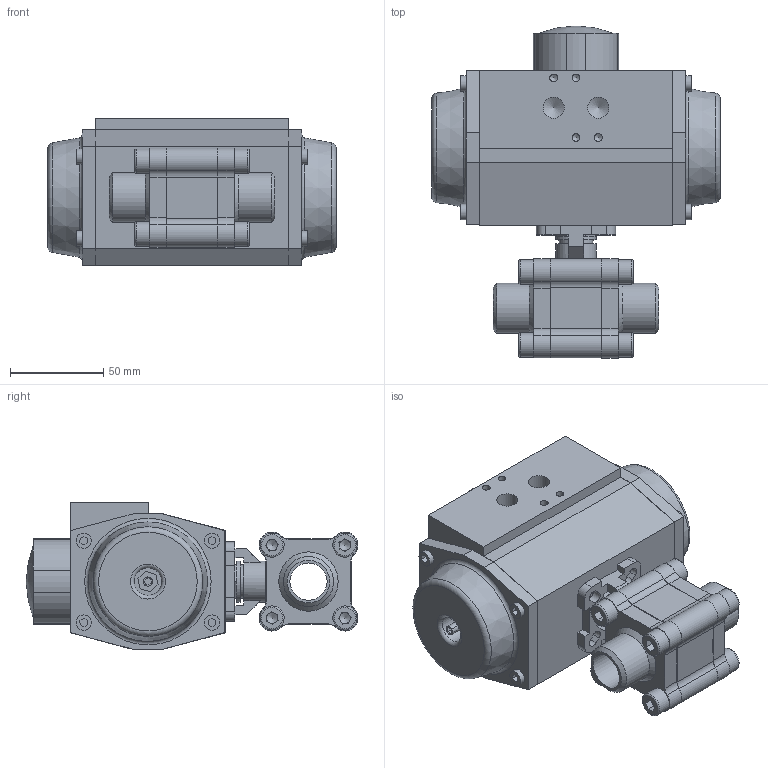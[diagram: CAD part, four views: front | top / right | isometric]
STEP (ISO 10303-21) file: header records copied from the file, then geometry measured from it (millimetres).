
FILE_DESCRIPTION (( 'STEP AP214' ), '1' );
FILE_NAME ('S33D BW DN20 + AP2.STEP', '2025-08-13T08:41:12', ( '' ), ( '' ), 'SwSTEP 2.0', 'SolidWorks 2021', '' );
FILE_SCHEMA (( 'AUTOMOTIVE_DESIGN' ));
Length unit declared in the file: millimetre
Products named in the file (6): S33D KK DN20 PN100; AP2_Default<As Machined>; S33D DN20 Buttweld; S33D BW DN20 + AP2; socket head cap screw_din_DIN 912 M8 x 20 --- 20N; S33D Flens Buttweld DN20
Assembly tree (13 placements, depth 3):
  S33D BW DN20 + AP2
    S33D DN20 Buttweld
      S33D KK DN20 PN100
      S33D Flens Buttweld DN20  x2
      socket head cap screw_din_DIN 912 M8 x 20 --- 20N  x8
    AP2_Default<As Machined>
Bounding box: 155 x 178.37 x 79 mm (x, y, z)
Volume: 972087.9 mm3; surface area: 122873.7 mm2
Topology: 19 solids, 19 shells, 532 faces, 1281 edges, 826 vertices
Faces by surface type: plane 355, cylinder 118, cone 36, torus 22, sphere 1
Full cylindrical faces by diameter (mm): 4.2 x12, 5 x2, 6.6 x4, 8 x8, 8.2 x8, 8.5 x8, 11.445 x2, 13 x8, 14.8 x2, 18 x1, 20 x3, 22 x2, 25 x1, 26.9 x2, 27 x1, 30 x1, 45.8 x1
Entity records: 11081 total; most frequent: DIRECTION 1739, CARTESIAN_POINT 1736, ORIENTED_EDGE 1586, EDGE_CURVE 793, LINE 593, VECTOR 593, AXIS2_PLACEMENT_3D 573, VERTEX_POINT 562
